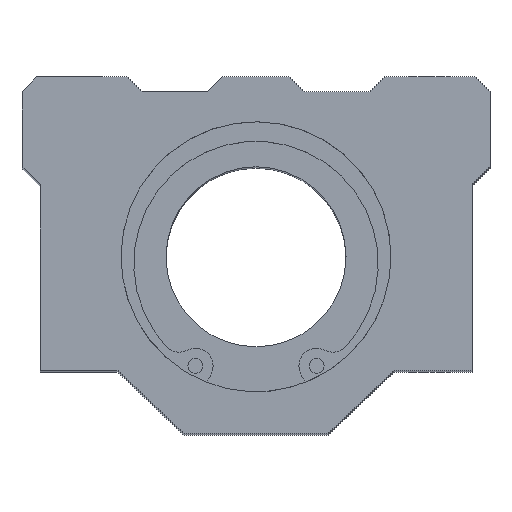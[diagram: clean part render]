
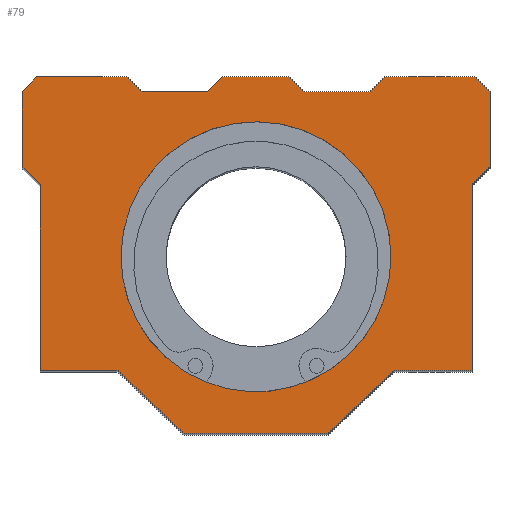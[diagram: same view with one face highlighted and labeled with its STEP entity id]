
A CAD part, top view. The second image highlights one B-rep face of the part: STEP entity #79.
In plain terms, the highlighted planar face has unit normal (0, 0, 1).
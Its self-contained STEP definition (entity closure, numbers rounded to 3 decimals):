
#79=ADVANCED_FACE('',(#151,#152),#153,.T.);
#151=FACE_OUTER_BOUND('',#312,.T.);
#152=FACE_BOUND('',#313,.T.);
#153=PLANE('',#314);
#312=EDGE_LOOP('',(#490,#491,#492,#493,#494,#495,#496,#497,#498,#499,#500,#501,#502,#503,#504,#505,#506,#507,#508,#509,#510,#511));
#313=EDGE_LOOP('',(#512));
#314=AXIS2_PLACEMENT_3D('',#513,#514,#515);
#490=ORIENTED_EDGE('',*,*,#972,.T.);
#491=ORIENTED_EDGE('',*,*,#973,.T.);
#492=ORIENTED_EDGE('',*,*,#974,.T.);
#493=ORIENTED_EDGE('',*,*,#975,.T.);
#494=ORIENTED_EDGE('',*,*,#976,.T.);
#495=ORIENTED_EDGE('',*,*,#977,.T.);
#496=ORIENTED_EDGE('',*,*,#978,.T.);
#497=ORIENTED_EDGE('',*,*,#979,.T.);
#498=ORIENTED_EDGE('',*,*,#980,.T.);
#499=ORIENTED_EDGE('',*,*,#981,.T.);
#500=ORIENTED_EDGE('',*,*,#982,.T.);
#501=ORIENTED_EDGE('',*,*,#983,.T.);
#502=ORIENTED_EDGE('',*,*,#984,.T.);
#503=ORIENTED_EDGE('',*,*,#985,.T.);
#504=ORIENTED_EDGE('',*,*,#986,.T.);
#505=ORIENTED_EDGE('',*,*,#987,.T.);
#506=ORIENTED_EDGE('',*,*,#988,.T.);
#507=ORIENTED_EDGE('',*,*,#989,.T.);
#508=ORIENTED_EDGE('',*,*,#990,.T.);
#509=ORIENTED_EDGE('',*,*,#991,.T.);
#510=ORIENTED_EDGE('',*,*,#992,.T.);
#511=ORIENTED_EDGE('',*,*,#993,.T.);
#512=ORIENTED_EDGE('',*,*,#994,.T.);
#513=CARTESIAN_POINT('',(-29.0,37.5,70.0));
#514=DIRECTION('',(0.0,-0.0,1.0));
#515=DIRECTION('',(0.0,1.0,0.0));
#972=EDGE_CURVE('',#1136,#1137,#1138,.T.);
#973=EDGE_CURVE('',#1137,#1139,#1140,.T.);
#974=EDGE_CURVE('',#1139,#1141,#1142,.T.);
#975=EDGE_CURVE('',#1141,#1143,#1144,.T.);
#976=EDGE_CURVE('',#1143,#1145,#1146,.T.);
#977=EDGE_CURVE('',#1145,#1147,#1148,.T.);
#978=EDGE_CURVE('',#1147,#1149,#1150,.T.);
#979=EDGE_CURVE('',#1149,#1151,#1152,.T.);
#980=EDGE_CURVE('',#1151,#1153,#1154,.T.);
#981=EDGE_CURVE('',#1153,#1155,#1156,.T.);
#982=EDGE_CURVE('',#1155,#1157,#1158,.T.);
#983=EDGE_CURVE('',#1157,#1159,#1160,.T.);
#984=EDGE_CURVE('',#1159,#1161,#1162,.T.);
#985=EDGE_CURVE('',#1161,#1163,#1164,.T.);
#986=EDGE_CURVE('',#1163,#1165,#1166,.T.);
#987=EDGE_CURVE('',#1165,#1167,#1168,.T.);
#988=EDGE_CURVE('',#1167,#1169,#1170,.T.);
#989=EDGE_CURVE('',#1169,#1171,#1172,.T.);
#990=EDGE_CURVE('',#1171,#1173,#1174,.T.);
#991=EDGE_CURVE('',#1173,#1175,#1176,.T.);
#992=EDGE_CURVE('',#1175,#1177,#1178,.T.);
#993=EDGE_CURVE('',#1177,#1136,#1179,.T.);
#994=EDGE_CURVE('',#1180,#1180,#1181,.F.);
#1136=VERTEX_POINT('',#1396);
#1137=VERTEX_POINT('',#1397);
#1138=LINE('',#1398,#1399);
#1139=VERTEX_POINT('',#1400);
#1140=LINE('',#1401,#1402);
#1141=VERTEX_POINT('',#1403);
#1142=LINE('',#1404,#1405);
#1143=VERTEX_POINT('',#1406);
#1144=LINE('',#1407,#1408);
#1145=VERTEX_POINT('',#1409);
#1146=LINE('',#1410,#1411);
#1147=VERTEX_POINT('',#1412);
#1148=LINE('',#1413,#1414);
#1149=VERTEX_POINT('',#1415);
#1150=LINE('',#1416,#1417);
#1151=VERTEX_POINT('',#1418);
#1152=LINE('',#1419,#1420);
#1153=VERTEX_POINT('',#1421);
#1154=LINE('',#1422,#1423);
#1155=VERTEX_POINT('',#1424);
#1156=LINE('',#1425,#1426);
#1157=VERTEX_POINT('',#1427);
#1158=LINE('',#1428,#1429);
#1159=VERTEX_POINT('',#1430);
#1160=LINE('',#1431,#1432);
#1161=VERTEX_POINT('',#1433);
#1162=LINE('',#1434,#1435);
#1163=VERTEX_POINT('',#1436);
#1164=LINE('',#1437,#1438);
#1165=VERTEX_POINT('',#1439);
#1166=LINE('',#1440,#1441);
#1167=VERTEX_POINT('',#1442);
#1168=LINE('',#1443,#1444);
#1169=VERTEX_POINT('',#1445);
#1170=LINE('',#1446,#1447);
#1171=VERTEX_POINT('',#1448);
#1172=LINE('',#1449,#1450);
#1173=VERTEX_POINT('',#1451);
#1174=LINE('',#1452,#1453);
#1175=VERTEX_POINT('',#1454);
#1176=LINE('',#1455,#1456);
#1177=VERTEX_POINT('',#1457);
#1178=LINE('',#1458,#1459);
#1179=LINE('',#1460,#1461);
#1180=VERTEX_POINT('',#1462);
#1181=CIRCLE('',#1463,22.5);
#1396=CARTESIAN_POINT('',(-19.0,27.5,70.0));
#1397=CARTESIAN_POINT('',(-21.5,30.0,70.0));
#1398=CARTESIAN_POINT('',(-19.0,27.5,70.0));
#1399=VECTOR('',#1756,1.0);
#1400=CARTESIAN_POINT('',(-36.5,30.0,70.0));
#1401=CARTESIAN_POINT('',(-21.5,30.0,70.0));
#1402=VECTOR('',#1757,1.0);
#1403=CARTESIAN_POINT('',(-39.0,27.5,70.0));
#1404=CARTESIAN_POINT('',(-36.5,30.0,70.0));
#1405=VECTOR('',#1758,1.0);
#1406=CARTESIAN_POINT('',(-39.0,15.0,70.0));
#1407=CARTESIAN_POINT('',(-39.0,27.5,70.0));
#1408=VECTOR('',#1759,1.0);
#1409=CARTESIAN_POINT('',(-36.0,12.0,70.0));
#1410=CARTESIAN_POINT('',(-39.0,15.0,70.0));
#1411=VECTOR('',#1760,1.0);
#1412=CARTESIAN_POINT('',(-36.0,-19.0,70.0));
#1413=CARTESIAN_POINT('',(-36.0,12.0,70.0));
#1414=VECTOR('',#1761,1.0);
#1415=CARTESIAN_POINT('',(-23.0,-19.0,70.0));
#1416=CARTESIAN_POINT('',(-36.0,-19.0,70.0));
#1417=VECTOR('',#1762,1.0);
#1418=CARTESIAN_POINT('',(-12.0,-29.5,70.0));
#1419=CARTESIAN_POINT('',(-23.0,-19.0,70.0));
#1420=VECTOR('',#1763,1.0);
#1421=CARTESIAN_POINT('',(12.0,-29.5,70.0));
#1422=CARTESIAN_POINT('',(-12.0,-29.5,70.0));
#1423=VECTOR('',#1764,1.0);
#1424=CARTESIAN_POINT('',(23.0,-19.0,70.0));
#1425=CARTESIAN_POINT('',(12.0,-29.5,70.0));
#1426=VECTOR('',#1765,1.0);
#1427=CARTESIAN_POINT('',(36.0,-19.0,70.0));
#1428=CARTESIAN_POINT('',(23.0,-19.0,70.0));
#1429=VECTOR('',#1766,1.0);
#1430=CARTESIAN_POINT('',(36.0,12.0,70.0));
#1431=CARTESIAN_POINT('',(36.0,-19.0,70.0));
#1432=VECTOR('',#1767,1.0);
#1433=CARTESIAN_POINT('',(39.0,15.0,70.0));
#1434=CARTESIAN_POINT('',(36.0,12.0,70.0));
#1435=VECTOR('',#1768,1.0);
#1436=CARTESIAN_POINT('',(39.0,27.5,70.0));
#1437=CARTESIAN_POINT('',(39.0,15.0,70.0));
#1438=VECTOR('',#1769,1.0);
#1439=CARTESIAN_POINT('',(36.5,30.0,70.0));
#1440=CARTESIAN_POINT('',(39.0,27.5,70.0));
#1441=VECTOR('',#1770,1.0);
#1442=CARTESIAN_POINT('',(21.5,30.0,70.0));
#1443=CARTESIAN_POINT('',(36.5,30.0,70.0));
#1444=VECTOR('',#1771,1.0);
#1445=CARTESIAN_POINT('',(19.0,27.5,70.0));
#1446=CARTESIAN_POINT('',(21.5,30.0,70.0));
#1447=VECTOR('',#1772,1.0);
#1448=CARTESIAN_POINT('',(8.0,27.5,70.0));
#1449=CARTESIAN_POINT('',(19.0,27.5,70.0));
#1450=VECTOR('',#1773,1.0);
#1451=CARTESIAN_POINT('',(5.5,30.0,70.0));
#1452=CARTESIAN_POINT('',(8.0,27.5,70.0));
#1453=VECTOR('',#1774,1.0);
#1454=CARTESIAN_POINT('',(-5.5,30.0,70.0));
#1455=CARTESIAN_POINT('',(5.5,30.0,70.0));
#1456=VECTOR('',#1775,1.0);
#1457=CARTESIAN_POINT('',(-8.,27.5,70.0));
#1458=CARTESIAN_POINT('',(-5.5,30.0,70.0));
#1459=VECTOR('',#1776,1.0);
#1460=CARTESIAN_POINT('',(-8.,27.5,70.0));
#1461=VECTOR('',#1777,1.0);
#1462=CARTESIAN_POINT('',(22.5,0.,70.0));
#1463=AXIS2_PLACEMENT_3D('',#1778,#1779,#1780);
#1756=DIRECTION('',(-0.707,0.707,0.0));
#1757=DIRECTION('',(-1.0,0.0,0.0));
#1758=DIRECTION('',(-0.707,-0.707,0.0));
#1759=DIRECTION('',(0.0,-1.0,0.0));
#1760=DIRECTION('',(0.707,-0.707,0.0));
#1761=DIRECTION('',(0.0,-1.0,0.0));
#1762=DIRECTION('',(1.0,0.0,0.0));
#1763=DIRECTION('',(0.723,-0.69,0.0));
#1764=DIRECTION('',(1.0,0.0,0.0));
#1765=DIRECTION('',(0.723,0.69,0.0));
#1766=DIRECTION('',(1.0,0.0,0.0));
#1767=DIRECTION('',(0.0,1.0,0.0));
#1768=DIRECTION('',(0.707,0.707,0.0));
#1769=DIRECTION('',(0.0,1.0,0.0));
#1770=DIRECTION('',(-0.707,0.707,0.0));
#1771=DIRECTION('',(-1.0,0.0,0.0));
#1772=DIRECTION('',(-0.707,-0.707,0.0));
#1773=DIRECTION('',(-1.0,0.0,0.0));
#1774=DIRECTION('',(-0.707,0.707,0.0));
#1775=DIRECTION('',(-1.0,0.0,0.0));
#1776=DIRECTION('',(-0.707,-0.707,0.0));
#1777=DIRECTION('',(-1.0,0.0,0.0));
#1778=CARTESIAN_POINT('',(0.0,0.0,70.0));
#1779=DIRECTION('',(0.0,0.0,1.0));
#1780=DIRECTION('',(1.0,0.0,0.0));
